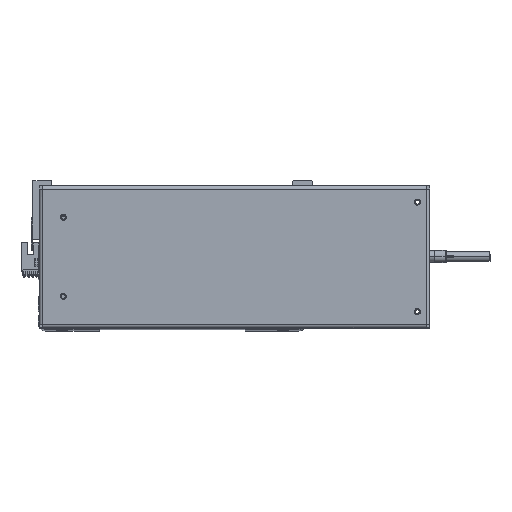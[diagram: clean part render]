
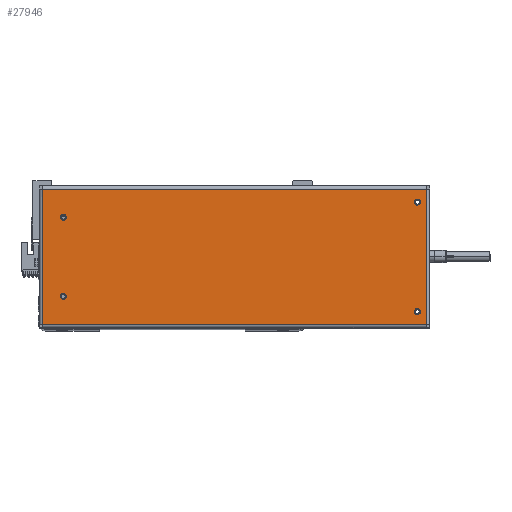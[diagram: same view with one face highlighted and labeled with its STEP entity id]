
A CAD part, top view. The second image highlights one B-rep face of the part: STEP entity #27946.
In plain terms, the highlighted planar face has unit normal (0, 0, 1).
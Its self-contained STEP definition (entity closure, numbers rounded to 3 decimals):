
#34 = VERTEX_POINT ( 'NONE', #10649 ) ;
#85 = EDGE_CURVE ( 'NONE', #39220, #9611, #28467, .T. ) ;
#202 = FACE_BOUND ( 'NONE', #23185, .T. ) ;
#550 = EDGE_LOOP ( 'NONE', ( #21836, #20957 ) ) ;
#1863 = LINE ( 'NONE', #6567, #33693 ) ;
#1935 = CIRCLE ( 'NONE', #7145, 2.5 ) ;
#1979 = VECTOR ( 'NONE', #3951, 1000. ) ;
#2382 = ORIENTED_EDGE ( 'NONE', *, *, #6939, .F. ) ;
#2389 = AXIS2_PLACEMENT_3D ( 'NONE', #30453, #3068, #30320 ) ;
#2802 = CARTESIAN_POINT ( 'NONE',  ( -157.6, -55.6, 0. ) ) ;
#3068 = DIRECTION ( 'NONE',  ( 0., 0., 1. ) ) ;
#3237 = VECTOR ( 'NONE', #13453, 1000. ) ;
#3543 = DIRECTION ( 'NONE',  ( 1., 0., 0. ) ) ;
#3951 = DIRECTION ( 'NONE',  ( 1., 0., 0. ) ) ;
#4483 = FACE_BOUND ( 'NONE', #550, .T. ) ;
#4832 = CARTESIAN_POINT ( 'NONE',  ( 157.6, -55.6, 0. ) ) ;
#5245 = DIRECTION ( 'NONE',  ( 1., 0., 0. ) ) ;
#5325 = DIRECTION ( 'NONE',  ( -1., 0., 0. ) ) ;
#5453 = FACE_BOUND ( 'NONE', #17534, .T. ) ;
#5546 = CARTESIAN_POINT ( 'NONE',  ( 150.5, 45., 0. ) ) ;
#5706 = CIRCLE ( 'NONE', #33444, 2.5 ) ;
#5846 = CARTESIAN_POINT ( 'NONE',  ( 157.7, 55.6, 0. ) ) ;
#5882 = EDGE_CURVE ( 'NONE', #31785, #39220, #35710, .T. ) ;
#6567 = CARTESIAN_POINT ( 'NONE',  ( -157.6, 55.6, 0. ) ) ;
#6802 = EDGE_CURVE ( 'NONE', #34, #13717, #10466, .T. ) ;
#6886 = FACE_BOUND ( 'NONE', #13556, .T. ) ;
#6939 = EDGE_CURVE ( 'NONE', #34721, #39108, #14289, .T. ) ;
#7145 = AXIS2_PLACEMENT_3D ( 'NONE', #5546, #11949, #23911 ) ;
#7171 = CARTESIAN_POINT ( 'NONE',  ( 157.6, 55.6, 0. ) ) ;
#7297 = LINE ( 'NONE', #5846, #14430 ) ;
#7338 = ORIENTED_EDGE ( 'NONE', *, *, #39242, .F. ) ;
#8360 = DIRECTION ( 'NONE',  ( 0., 0., 1. ) ) ;
#8762 = DIRECTION ( 'NONE',  ( 1., 0., 0. ) ) ;
#8797 = FACE_OUTER_BOUND ( 'NONE', #36411, .T. ) ;
#9611 = VERTEX_POINT ( 'NONE', #7171 ) ;
#10248 = CARTESIAN_POINT ( 'NONE',  ( -140.5, -32.5, 0. ) ) ;
#10466 = CIRCLE ( 'NONE', #2389, 2.5 ) ;
#10649 = CARTESIAN_POINT ( 'NONE',  ( -138., 32.5, 0. ) ) ;
#11302 = CARTESIAN_POINT ( 'NONE',  ( 153., -45., 0. ) ) ;
#11596 = CARTESIAN_POINT ( 'NONE',  ( 153., 45., 0. ) ) ;
#11666 = VERTEX_POINT ( 'NONE', #11302 ) ;
#11949 = DIRECTION ( 'NONE',  ( 0., 0., 1. ) ) ;
#12035 = CARTESIAN_POINT ( 'NONE',  ( -140.5, 32.5, 0. ) ) ;
#12472 = CIRCLE ( 'NONE', #23540, 2.5 ) ;
#12728 = CIRCLE ( 'NONE', #23691, 2.5 ) ;
#13314 = DIRECTION ( 'NONE',  ( 0., 0., 1. ) ) ;
#13453 = DIRECTION ( 'NONE',  ( 0., 1., 0. ) ) ;
#13556 = EDGE_LOOP ( 'NONE', ( #2382, #7338 ) ) ;
#13649 = ORIENTED_EDGE ( 'NONE', *, *, #31458, .T. ) ;
#13712 = CARTESIAN_POINT ( 'NONE',  ( 157.6, -55.6, 0. ) ) ;
#13717 = VERTEX_POINT ( 'NONE', #39279 ) ;
#14000 = EDGE_CURVE ( 'NONE', #11666, #20007, #12728, .T. ) ;
#14289 = CIRCLE ( 'NONE', #32185, 2.5 ) ;
#14430 = VECTOR ( 'NONE', #5325, 1000. ) ;
#15229 = EDGE_CURVE ( 'NONE', #19916, #16071, #31160, .T. ) ;
#16071 = VERTEX_POINT ( 'NONE', #24708 ) ;
#17233 = VERTEX_POINT ( 'NONE', #28502 ) ;
#17323 = DIRECTION ( 'NONE',  ( 0., 0., 1. ) ) ;
#17534 = EDGE_LOOP ( 'NONE', ( #29623, #20670 ) ) ;
#18478 = ORIENTED_EDGE ( 'NONE', *, *, #14000, .F. ) ;
#19105 = CIRCLE ( 'NONE', #26688, 2.5 ) ;
#19323 = CARTESIAN_POINT ( 'NONE',  ( 150.5, -45., 0. ) ) ;
#19382 = DIRECTION ( 'NONE',  ( 1., 0., 0. ) ) ;
#19578 = CARTESIAN_POINT ( 'NONE',  ( -143., -32.5, 0. ) ) ;
#19765 = ORIENTED_EDGE ( 'NONE', *, *, #28566, .T. ) ;
#19916 = VERTEX_POINT ( 'NONE', #11596 ) ;
#20007 = VERTEX_POINT ( 'NONE', #33612 ) ;
#20249 = ORIENTED_EDGE ( 'NONE', *, *, #35386, .F. ) ;
#20521 = DIRECTION ( 'NONE',  ( 1., 0., 0. ) ) ;
#20670 = ORIENTED_EDGE ( 'NONE', *, *, #29309, .F. ) ;
#20686 = DIRECTION ( 'NONE',  ( -1., 0., 0. ) ) ;
#20699 = CARTESIAN_POINT ( 'NONE',  ( 150.5, 45., 0. ) ) ;
#20939 = DIRECTION ( 'NONE',  ( 0., 0., 1. ) ) ;
#20957 = ORIENTED_EDGE ( 'NONE', *, *, #30431, .F. ) ;
#21836 = ORIENTED_EDGE ( 'NONE', *, *, #15229, .F. ) ;
#23185 = EDGE_LOOP ( 'NONE', ( #18478, #20249 ) ) ;
#23540 = AXIS2_PLACEMENT_3D ( 'NONE', #29175, #35240, #38329 ) ;
#23691 = AXIS2_PLACEMENT_3D ( 'NONE', #19323, #31045, #3543 ) ;
#23770 = CARTESIAN_POINT ( 'NONE',  ( 157.7, 58.5, 0. ) ) ;
#23911 = DIRECTION ( 'NONE',  ( 1., 0., 0. ) ) ;
#24708 = CARTESIAN_POINT ( 'NONE',  ( 148., 45., 0. ) ) ;
#26688 = AXIS2_PLACEMENT_3D ( 'NONE', #12035, #20939, #20521 ) ;
#26936 = DIRECTION ( 'NONE',  ( 0., 0., -1. ) ) ;
#27437 = DIRECTION ( 'NONE',  ( 0., -1., 0. ) ) ;
#27946 = ADVANCED_FACE ( 'NONE', ( #6886, #5453, #202, #4483, #8797 ), #30257, .F. ) ;
#28239 = ORIENTED_EDGE ( 'NONE', *, *, #5882, .T. ) ;
#28467 = LINE ( 'NONE', #13712, #3237 ) ;
#28502 = CARTESIAN_POINT ( 'NONE',  ( -157.6, 55.6, 0. ) ) ;
#28566 = EDGE_CURVE ( 'NONE', #9611, #17233, #7297, .T. ) ;
#29175 = CARTESIAN_POINT ( 'NONE',  ( 150.5, -45., 0. ) ) ;
#29309 = EDGE_CURVE ( 'NONE', #13717, #34, #19105, .T. ) ;
#29623 = ORIENTED_EDGE ( 'NONE', *, *, #6802, .F. ) ;
#30257 = PLANE ( 'NONE',  #37347 ) ;
#30320 = DIRECTION ( 'NONE',  ( 1., 0., 0. ) ) ;
#30431 = EDGE_CURVE ( 'NONE', #16071, #19916, #1935, .T. ) ;
#30453 = CARTESIAN_POINT ( 'NONE',  ( -140.5, 32.5, 0. ) ) ;
#31045 = DIRECTION ( 'NONE',  ( 0., 0., 1. ) ) ;
#31049 = CARTESIAN_POINT ( 'NONE',  ( -157.7, -55.6, 0. ) ) ;
#31160 = CIRCLE ( 'NONE', #38973, 2.5 ) ;
#31458 = EDGE_CURVE ( 'NONE', #17233, #31785, #1863, .T. ) ;
#31785 = VERTEX_POINT ( 'NONE', #2802 ) ;
#32185 = AXIS2_PLACEMENT_3D ( 'NONE', #10248, #13314, #19382 ) ;
#33444 = AXIS2_PLACEMENT_3D ( 'NONE', #35511, #17323, #5245 ) ;
#33612 = CARTESIAN_POINT ( 'NONE',  ( 148., -45., 0. ) ) ;
#33693 = VECTOR ( 'NONE', #27437, 1000. ) ;
#34721 = VERTEX_POINT ( 'NONE', #36940 ) ;
#35143 = ORIENTED_EDGE ( 'NONE', *, *, #85, .T. ) ;
#35240 = DIRECTION ( 'NONE',  ( 0., 0., 1. ) ) ;
#35386 = EDGE_CURVE ( 'NONE', #20007, #11666, #12472, .T. ) ;
#35511 = CARTESIAN_POINT ( 'NONE',  ( -140.5, -32.5, 0. ) ) ;
#35710 = LINE ( 'NONE', #31049, #1979 ) ;
#36411 = EDGE_LOOP ( 'NONE', ( #13649, #28239, #35143, #19765 ) ) ;
#36940 = CARTESIAN_POINT ( 'NONE',  ( -138., -32.5, 0. ) ) ;
#37347 = AXIS2_PLACEMENT_3D ( 'NONE', #23770, #26936, #20686 ) ;
#38329 = DIRECTION ( 'NONE',  ( 1., 0., 0. ) ) ;
#38973 = AXIS2_PLACEMENT_3D ( 'NONE', #20699, #8360, #8762 ) ;
#39108 = VERTEX_POINT ( 'NONE', #19578 ) ;
#39220 = VERTEX_POINT ( 'NONE', #4832 ) ;
#39242 = EDGE_CURVE ( 'NONE', #39108, #34721, #5706, .T. ) ;
#39279 = CARTESIAN_POINT ( 'NONE',  ( -143., 32.5, 0. ) ) ;
